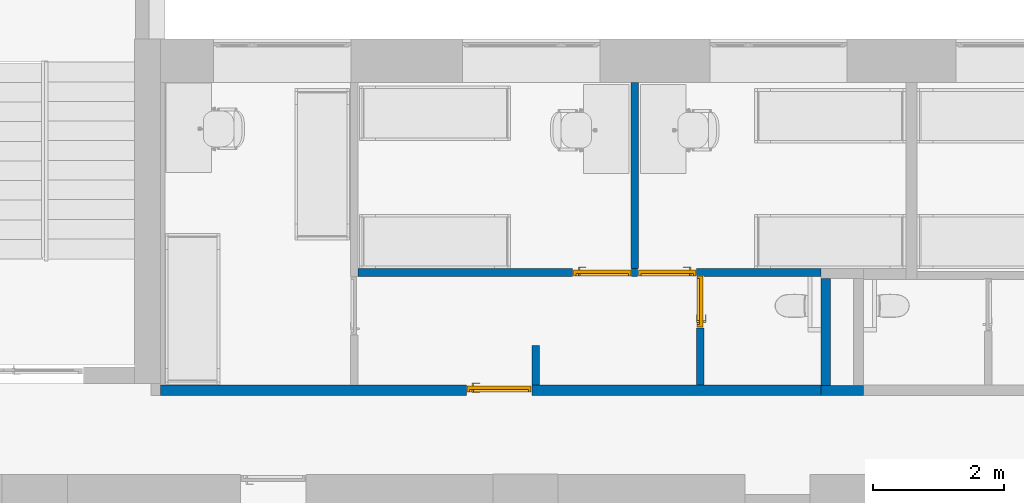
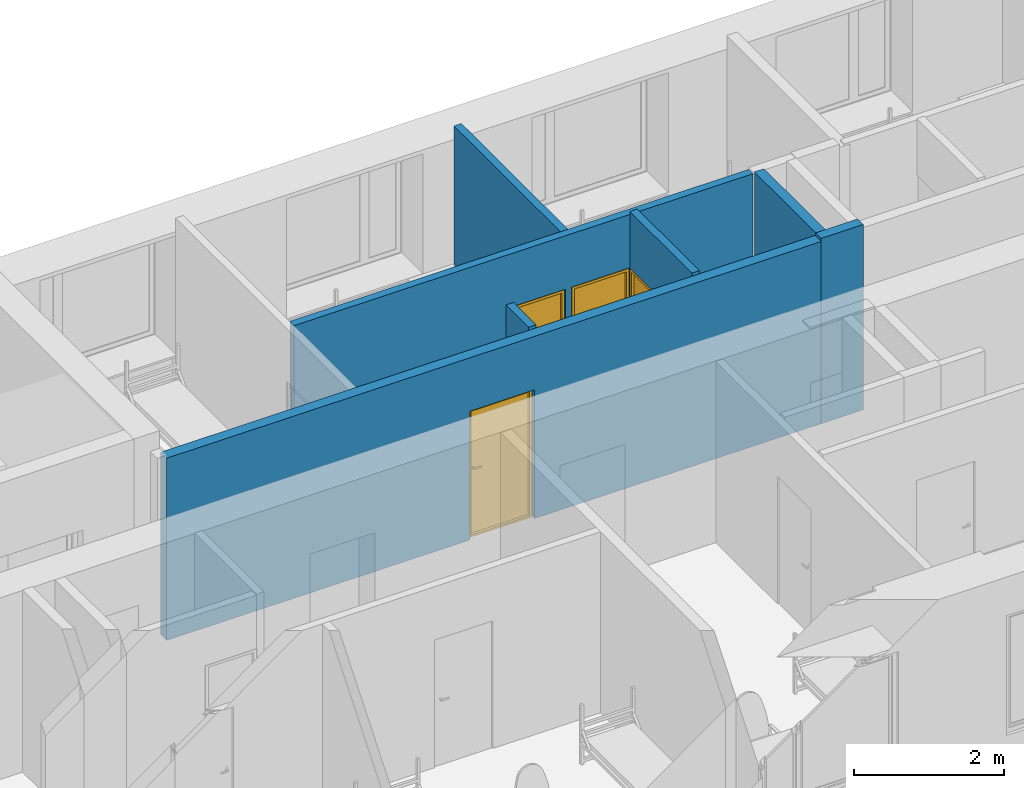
# One storey, part 9 of 48: 7 walls, 4 doors, 5 openings.
"""IFC2X3 building model written with IfcOpenShell, lengths in millimetres."""

from ifc_helpers import new_model, entity, si_unit, converted_unit, derived_unit, direction, frame, frame_2d, origin, place, context, subcontext, project, spatial, rectangle, extrude, faceted_brep, source, transform, mapped, material, material_list, layer, layer_set, layer_usage, type_object, type_shapes, element, fill, save


model = new_model("IFC2X3")

# Units and contexts
model_context = context("Model", 3, precision=0.01, world=origin(), true_north=direction((6.12303176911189e-17, 1.0)))
body_context = subcontext(model_context, "Body", "Model", "MODEL_VIEW")
ifc_project = project(units=[si_unit("LENGTHUNIT", "METRE", prefix="MILLI"), si_unit("AREAUNIT", "SQUARE_METRE"), si_unit("VOLUMEUNIT", "CUBIC_METRE"), converted_unit("PLANEANGLEUNIT", "DEGREE", entity("IfcRatioMeasure", 0.0174532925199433), si_unit("PLANEANGLEUNIT", "RADIAN"), dimensions=[0, 0, 0, 0, 0, 0, 0]), si_unit("MASSUNIT", "GRAM", prefix="KILO"), derived_unit("MASSDENSITYUNIT", [(si_unit("MASSUNIT", "GRAM", prefix="KILO"), 1), (si_unit("LENGTHUNIT", "METRE"), -3)]), si_unit("TIMEUNIT", "SECOND"), si_unit("FREQUENCYUNIT", "HERTZ"), si_unit("THERMODYNAMICTEMPERATUREUNIT", "DEGREE_CELSIUS"), derived_unit("THERMALTRANSMITTANCEUNIT", [(si_unit("MASSUNIT", "GRAM", prefix="KILO"), 1), (si_unit("THERMODYNAMICTEMPERATUREUNIT", "KELVIN"), -1), (si_unit("TIMEUNIT", "SECOND"), -3)]), derived_unit("VOLUMETRICFLOWRATEUNIT", [(si_unit("LENGTHUNIT", "METRE"), 3), (si_unit("TIMEUNIT", "SECOND"), -1)]), si_unit("ELECTRICCURRENTUNIT", "AMPERE"), si_unit("ELECTRICVOLTAGEUNIT", "VOLT"), si_unit("POWERUNIT", "WATT"), si_unit("FORCEUNIT", "NEWTON", prefix="KILO"), si_unit("ILLUMINANCEUNIT", "LUX"), si_unit("LUMINOUSFLUXUNIT", "LUMEN"), si_unit("LUMINOUSINTENSITYUNIT", "CANDELA"), derived_unit("USERDEFINED", [(si_unit("MASSUNIT", "GRAM", prefix="KILO"), -1), (si_unit("LENGTHUNIT", "METRE"), -2), (si_unit("TIMEUNIT", "SECOND"), 3), (si_unit("LUMINOUSFLUXUNIT", "LUMEN"), 1)]), derived_unit("LINEARVELOCITYUNIT", [(si_unit("LENGTHUNIT", "METRE"), 1), (si_unit("TIMEUNIT", "SECOND"), -1)]), si_unit("PRESSUREUNIT", "PASCAL"), derived_unit("USERDEFINED", [(si_unit("LENGTHUNIT", "METRE"), -2), (si_unit("MASSUNIT", "GRAM", prefix="KILO"), 1), (si_unit("TIMEUNIT", "SECOND"), -2)]), derived_unit("LINEARFORCEUNIT", [(si_unit("MASSUNIT", "GRAM", prefix="KILO"), 1), (si_unit("LENGTHUNIT", "METRE"), 1), (si_unit("TIMEUNIT", "SECOND"), -2), (si_unit("LENGTHUNIT", "METRE"), -1)]), derived_unit("PLANARFORCEUNIT", [(si_unit("MASSUNIT", "GRAM", prefix="KILO"), 1), (si_unit("LENGTHUNIT", "METRE"), 1), (si_unit("TIMEUNIT", "SECOND"), -2), (si_unit("LENGTHUNIT", "METRE"), -2)])], contexts=[model_context])

# Site, building, storey
site_placement = place(None, origin())
site = spatial("IfcSite", under=ifc_project, at=site_placement, Name="Default", CompositionType="ELEMENT")
building_placement = place(site_placement, origin())
building = spatial("IfcBuilding", under=site, at=building_placement, Name="SMA ARH", CompositionType="ELEMENT")
storey_placement = place(building_placement, frame((0.0, 0.0, 6600.0)))
storey = spatial("IfcBuildingStorey", under=building, at=storey_placement, Name="3 Korrus", CompositionType="ELEMENT", Elevation=6599.99999999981)

# Walls
ifc_material_1 = material(Name="EST. Müüritis. Väikeplokk. Kergkruusplokk")
ifc_layer_1 = layer(ifc_material_1, 150.0)
ifc_layer_set_1 = layer_set([ifc_layer_1], Name="Basic Wall:SS-02_ 150mm šahtide vahesein")
ifc_layer_usage_1 = layer_usage(ifc_layer_set_1, "AXIS2", "POSITIVE", -75.0)
wall_type_1 = type_object("IfcWallType", Name="Basic Wall:SS-02_ 150mm šahtide vahesein", PredefinedType="STANDARD", material=ifc_layer_set_1)
wall_1_placement = place(storey_placement, frame((22737.2884818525, 7795.0, 0.0), z_axis=(0.0, 0.0, 1.0), x_axis=(-1.0, 0.0, 0.0)))
element("IfcWallStandardCase", 1, at=wall_1_placement, inside=storey, type_object=wall_type_1, material=ifc_layer_usage_1, Name="Basic Wall:SS-02_ 150mm šahtide vahesein", ObjectType="Basic Wall:SS-02_ 150mm šahtide vahesein", context=body_context, shape_type="SweptSolid", body=[
    extrude(rectangle(XDim=650.000000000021, YDim=150.000000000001, at=frame_2d((325.000000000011, 4.68958205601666e-13), x_axis=(-1.0, 0.0))), origin(), (0.0, 0.0, 1.0), 3019.99999999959),
])
ifc_layer_usage_2 = layer_usage(ifc_layer_set_1, "AXIS2", "POSITIVE", -75.0)
wall_2_placement = place(storey_placement, frame((22162.2884818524, 7870.0, 0.0), z_axis=(0.0, 0.0, 1.0), x_axis=(0.0, 1.0, 0.0)))
element("IfcWallStandardCase", 2, at=wall_2_placement, inside=storey, type_object=wall_type_1, material=ifc_layer_usage_2, Name="Basic Wall:SS-02_ 150mm šahtide vahesein", ObjectType="Basic Wall:SS-02_ 150mm šahtide vahesein", context=body_context, shape_type="SweptSolid", body=[
    extrude(rectangle(XDim=1637.00000000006, YDim=150.000000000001, at=frame_2d((818.500000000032, 0.0), x_axis=(-1.0, 0.0))), origin(), (0.0, 0.0, 1.0), 3019.99999999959),
])

# Wall, opening, door
ifc_material_2 = material(Name="EST. Ehitusplaat. Kipsplaat")
ifc_layer_2 = layer(ifc_material_2, 12.5)
ifc_layer_3 = layer(ifc_material_2, 12.5)
ifc_material_3 = material(Name="EST. Soojustus. Mineraalvill. Default")
ifc_layer_4 = layer(ifc_material_3, 50.0)
ifc_layer_5 = layer(ifc_material_2, 12.5)
ifc_layer_6 = layer(ifc_material_3, 50.0)
ifc_layer_7 = layer(ifc_material_2, 12.5)
ifc_layer_8 = layer(ifc_material_2, 12.5)
ifc_layer_set_2 = layer_set([ifc_layer_2, ifc_layer_3, ifc_layer_4, ifc_layer_5, ifc_layer_6, ifc_layer_7, ifc_layer_8], Name="Basic Wall:SS-04_Kips, 50+50 mm metallkarkass 2")
ifc_layer_usage_3 = layer_usage(ifc_layer_set_2, "AXIS2", "NEGATIVE", 81.25)
wall_type_2 = type_object("IfcWallType", Name="Basic Wall:SS-04_Kips, 50+50 mm metallkarkass 2", PredefinedType="STANDARD", material=ifc_layer_set_2)
wall_3_placement = place(storey_placement, frame((12000.0, 7801.25000000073, 0.0)))
wall_3 = element("IfcWallStandardCase", 3, at=wall_3_placement, inside=storey, type_object=wall_type_2, material=ifc_layer_usage_3, Name="Basic Wall:SS-04_Kips, 50+50 mm metallkarkass 2", ObjectType="Basic Wall:SS-04_Kips, 50+50 mm metallkarkass 2", context=body_context, shape_type="SweptSolid", body=[
    extrude(rectangle(XDim=10087.2884818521, YDim=162.5, at=frame_2d((5043.64424092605, -1.4210854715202e-14), x_axis=(-1.0, 0.0))), origin(), (0.0, 0.0, 1.0), 2970.00000000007),
])
opening_1_placement = place(wall_3_placement, frame((4672.0, -81.2500000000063, 0.0)))
opening_1 = element("IfcOpeningElement", 4, at=opening_1_placement, cuts=wall_3, Name="SMA_D01, 1-poolne:SU-P-04 - 1000x2100 EI-30:1", ObjectType="Opening", context=body_context, shape_type="SweptSolid", body=[
    extrude(rectangle(XDim=2099.99999999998, YDim=1000.0, at=frame_2d((1049.99999999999, 500.0), x_axis=(1.0, 0.0))), frame((0.0, 0.0, 0.0), z_axis=(0.0, 1.0, 0.0), x_axis=(0.0, 0.0, 1.0)), (0.0, 0.0, 1.0), 162.5),
])
ifc_material_4 = material(Name="EST. Metall. Alumiinium. Värvitud. RAL7023 (Concrete grey)")
ifc_material_5 = material(Name="<Unnamed>")
ifc_material_6 = material(Name="EST. Klaas. 3x. Default")
ifc_material_list_1 = material_list([ifc_material_5, ifc_material_6, ifc_material_5, ifc_material_4, ifc_material_5, ifc_material_4, ifc_material_4])
door_style_1 = type_object("IfcDoorStyle", Name="SMA_D01, 1-poolne:SU-P-04 - 1000x2100 EI-30", ConstructionType="NOTDEFINED", OperationType="SINGLE_SWING_RIGHT", ParameterTakesPrecedence=False, Sizeable=False, material=ifc_material_list_1)
shared_shape_1 = source(origin(), body_context, "Body", "Brep", [
    faceted_brep([(110.0, 52.5000000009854, 1112.5), (110.0, 90.5000000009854, 1112.5), (85.0, 90.5000000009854, 1112.5), (85.0, 47.5000000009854, 1112.5), (205.0, 47.5000000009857, 1112.5), (205.0, 52.5000000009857, 1112.5), (110.0, 52.5000000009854, 1087.5), (205.0, 52.5000000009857, 1087.5), (205.0, 47.5000000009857, 1087.5), (85.0, 47.5000000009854, 1087.5), (85.0, 90.5000000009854, 1087.5), (110.0, 90.5000000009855, 1087.5)], [[[0, 1, 2, 3, 4, 5]], [[6, 7, 8, 9, 10, 11]], [[1, 0, 6, 11]], [[2, 1, 11, 10]], [[3, 2, 10, 9]], [[4, 3, 9, 8]], [[5, 4, 8, 7]], [[0, 5, 7, 6]]]),
    faceted_brep([(122.499999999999, 90.5000000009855, 1137.5), (122.499999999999, 92.5000000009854, 1137.5), (72.4999999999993, 92.5000000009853, 1137.5), (72.4999999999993, 90.5000000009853, 1137.5), (122.499999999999, 90.5000000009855, 1017.5), (72.4999999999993, 90.5000000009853, 1017.5), (72.4999999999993, 92.5000000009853, 1017.5), (122.499999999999, 92.5000000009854, 1017.5)], [[[0, 1, 2, 3]], [[4, 5, 6, 7]], [[1, 0, 4, 7]], [[2, 1, 7, 6]], [[3, 2, 6, 5]], [[0, 3, 5, 4]]]),
    faceted_brep([(110.0, 182.500000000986, 1112.5), (205.0, 182.500000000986, 1112.5), (205.0, 187.500000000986, 1112.5), (85.0, 187.500000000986, 1112.5), (85.0, 144.500000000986, 1112.5), (110.0, 144.500000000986, 1112.5), (110.0, 182.500000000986, 1087.5), (110.0, 144.500000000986, 1087.5), (85.0, 144.500000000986, 1087.5), (85.0, 187.500000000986, 1087.5), (205.0, 187.500000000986, 1087.5), (205.0, 182.500000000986, 1087.5)], [[[0, 1, 2, 3, 4, 5]], [[6, 7, 8, 9, 10, 11]], [[5, 7, 6, 0]], [[4, 8, 7, 5]], [[3, 9, 8, 4]], [[2, 10, 9, 3]], [[1, 11, 10, 2]], [[0, 6, 11, 1]]]),
    faceted_brep([(122.499999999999, 144.500000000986, 1137.5), (72.4999999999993, 144.500000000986, 1137.5), (72.4999999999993, 142.500000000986, 1137.5), (122.499999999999, 142.500000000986, 1137.5), (122.499999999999, 144.500000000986, 1017.5), (122.499999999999, 142.500000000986, 1017.5), (72.4999999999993, 142.500000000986, 1017.5), (72.4999999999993, 144.500000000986, 1017.5)], [[[0, 1, 2, 3]], [[4, 5, 6, 7]], [[3, 5, 4, 0]], [[2, 6, 5, 3]], [[1, 7, 6, 2]], [[0, 4, 7, 1]]]),
    faceted_brep([(950.0, 52.5000000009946, 30.0), (950.0, 52.5000000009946, 0.0), (950.0, 92.5000000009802, 0.0), (950.0, 92.5000000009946, 20.0), (950.0, 92.5000000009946, 30.0), (50.0, 52.5000000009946, 30.0), (50.0, 92.5000000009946, 30.0), (50.0, 92.5000000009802, 20.0), (50.0, 92.5000000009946, 0.0), (50.0, 52.5000000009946, 0.0), (35.0, 92.5000000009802, 0.0), (35.0, 142.500000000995, 0.0), (965.0, 142.500000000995, 0.0), (965.0, 92.5000000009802, 0.0), (965.0, 142.500000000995, 20.0), (965.0, 92.5000000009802, 20.0), (35.0, 142.500000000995, 20.0), (35.0, 92.5000000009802, 20.0)], [[[0, 1, 2, 3, 4]], [[5, 6, 7, 8, 9]], [[1, 0, 5, 9]], [[2, 1, 9, 8, 10, 11, 12, 13]], [[6, 4, 3, 7]], [[0, 4, 6, 5]], [[14, 15, 13, 12]], [[16, 11, 10, 17]], [[15, 14, 16, 17, 7, 3]], [[13, 15, 3, 2]], [[14, 12, 11, 16]], [[17, 10, 8, 7]]]),
    faceted_brep([(990.0, 52.5000000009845, 0.0), (950.0, 52.5000000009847, 0.0), (950.0, 92.5000000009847, 0.0), (965.0, 92.5000000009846, 0.0), (965.0, 142.500000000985, 0.0), (990.0, 142.500000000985, 0.0), (990.0, 52.5000000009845, 2090.0), (10.0, 52.5000000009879, 2090.0), (10.0, 52.5000000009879, 0.0), (50.0, 52.5000000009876, 0.0), (50.0, 52.5000000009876, 2050.0), (950.0, 52.5000000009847, 2050.0), (950.0, 92.5000000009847, 2050.0), (50.0, 92.5000000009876, 2050.0), (50.0, 92.5000000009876, 0.0), (35.0, 92.5000000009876, 0.0), (35.0, 92.5000000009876, 2065.0), (965.0, 92.5000000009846, 2065.0), (965.0, 142.500000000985, 2065.0), (35.0, 142.500000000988, 2065.0), (35.0, 142.500000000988, 0.0), (10.0, 142.500000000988, 0.0), (10.0, 142.500000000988, 2090.0), (990.0, 142.500000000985, 2090.0)], [[[0, 1, 2, 3, 4, 5]], [[1, 0, 6, 7, 8, 9, 10, 11]], [[2, 1, 11, 12]], [[3, 2, 12, 13, 14, 15, 16, 17]], [[4, 3, 17, 18]], [[5, 4, 18, 19, 20, 21, 22, 23]], [[0, 5, 23, 6]], [[8, 7, 22, 21]], [[9, 8, 21, 20, 15, 14]], [[10, 9, 14, 13]], [[16, 15, 20, 19]], [[11, 10, 13, 12]], [[17, 16, 19, 18]], [[7, 6, 23, 22]]]),
    faceted_brep([(35.0, 92.5000000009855, 2065.0), (35.0, 92.5000000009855, 20.0), (965.0, 92.5000000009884, 20.0), (965.0, 92.5000000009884, 2065.0), (35.0, 142.500000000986, 2065.0), (965.0, 142.500000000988, 2065.0), (965.0, 142.500000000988, 20.0), (35.0, 142.500000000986, 20.0)], [[[0, 1, 2, 3]], [[4, 5, 6, 7]], [[1, 0, 4, 7]], [[2, 1, 7, 6]], [[3, 2, 6, 5]], [[0, 3, 5, 4]]]),
])
type_shapes(door_style_1, [shared_shape_1])
door_1_placement = place(opening_1_placement, origin())
door_1 = element("IfcDoor", 5, at=door_1_placement, inside=storey, type_object=door_style_1, material=ifc_material_4, Name="SMA_D01, 1-poolne:SU-P-04 - 1000x2100 EI-30", ObjectType="SMA_D01, 1-poolne:SU-P-04 - 1000x2100 EI-30", OverallHeight=2099.99999999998, OverallWidth=1000.0, context=body_context, shape_type="MappedRepresentation", body=[
    mapped(shared_shape_1, transform((0.0, 0.0, 0.0), scale=1.0)),
])
fill(opening_1, door_1)

# Wall, openings, doors
ifc_layer_9 = layer(ifc_material_2, 12.5)
ifc_layer_10 = layer(ifc_material_2, 12.5)
ifc_layer_11 = layer(ifc_material_3, 66.0)
ifc_layer_12 = layer(ifc_material_2, 12.5)
ifc_layer_13 = layer(ifc_material_2, 12.5)
ifc_layer_set_3 = layer_set([ifc_layer_9, ifc_layer_10, ifc_layer_11, ifc_layer_12, ifc_layer_13], Name="Basic Wall:SS-05_Kips, 66mm metallkarkass")
ifc_layer_usage_4 = layer_usage(ifc_layer_set_3, "AXIS2", "NEGATIVE", 58.0)
wall_type_3 = type_object("IfcWallType", Name="Basic Wall:SS-05_Kips, 66mm metallkarkass", PredefinedType="STANDARD", material=ifc_layer_set_3)
wall_4_placement = place(storey_placement, frame((15015.5000000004, 9599.0, 0.0)))
wall_4 = element("IfcWallStandardCase", 6, at=wall_4_placement, inside=storey, type_object=wall_type_3, material=ifc_layer_usage_4, Name="Basic Wall:SS-05_Kips, 66mm metallkarkass", ObjectType="Basic Wall:SS-05_Kips, 66mm metallkarkass", context=body_context, shape_type="SweptSolid", body=[
    extrude(rectangle(XDim=7071.78848185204, YDim=116.0, at=frame_2d((3535.89424092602, -6.75015598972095e-14), x_axis=(-1.0, 0.0))), origin(), (0.0, 0.0, 1.0), 2970.00000000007),
])
opening_2_placement = place(wall_4_placement, origin())
element("IfcOpeningElement", 7, at=opening_2_placement, cuts=wall_4, Name="Basic Wall:SS-05_Kips, 66mm metallkarkass", ObjectType="Opening", context=body_context, shape_type="SweptSolid", body=[
    extrude(rectangle(XDim=2099.99999999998, YDim=116.0, at=frame_2d((0.0, -5.6843418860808e-13), x_axis=(0.0, 1.0))), frame((5230.49999999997, -845.500000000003, 1050.0), z_axis=(0.0, 1.0, 0.0), x_axis=(-1.0, 0.0, 0.0)), (0.0, 0.0, 1.0), 800.0),
])
opening_3_placement = place(wall_4_placement, frame((3280.49999999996, -58.0, 0.0)))
opening_3 = element("IfcOpeningElement", 8, at=opening_3_placement, cuts=wall_4, Name="SMA_D01, 1-poolne:SU-P-05 - 900x2100 TUBA:1", ObjectType="Opening", context=body_context, shape_type="SweptSolid", body=[
    extrude(rectangle(XDim=2099.99999999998, YDim=900.0, at=frame_2d((1049.99999999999, 450.0), x_axis=(1.0, 0.0))), frame((0.0, 0.0, 0.0), z_axis=(0.0, 1.0, 0.0), x_axis=(0.0, 0.0, 1.0)), (0.0, 0.0, 1.0), 116.0),
])
opening_4_placement = place(wall_4_placement, frame((4273.49999999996, -58.0, 0.0)))
opening_4 = element("IfcOpeningElement", 9, at=opening_4_placement, cuts=wall_4, Name="SMA_D01, 1-poolne:SU-P-05 - 900x2100 TUBA:1", ObjectType="Opening", context=body_context, shape_type="SweptSolid", body=[
    extrude(rectangle(XDim=2099.99999999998, YDim=900.0, at=frame_2d((1049.99999999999, 450.000000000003), x_axis=(1.0, 0.0))), frame((0.0, 0.0, 0.0), z_axis=(0.0, 1.0, 0.0), x_axis=(0.0, 0.0, 1.0)), (0.0, 0.0, 1.0), 116.0),
])
ifc_material_list_2 = material_list([ifc_material_4, ifc_material_5, ifc_material_4, ifc_material_5, ifc_material_5, ifc_material_6, ifc_material_4])
door_style_2 = type_object("IfcDoorStyle", Name="SMA_D01, 1-poolne:SU-P-05 - 900x2100 TUBA", ConstructionType="NOTDEFINED", OperationType="SINGLE_SWING_LEFT", ParameterTakesPrecedence=False, Sizeable=False, material=ifc_material_list_2)
shared_shape_2 = source(origin(), body_context, "Body", "Brep", [
    faceted_brep([(790.0, 6.0, 1112.5), (695.0, 6.0, 1112.5), (695.0, 1.0, 1112.5), (815.0, 1.0, 1112.5), (815.0, 44.0, 1112.5), (790.0, 44.0, 1112.5), (790.0, 6.0, 1087.5), (790.0, 44.0, 1087.5), (815.0, 44.0, 1087.5), (815.0, 1.0, 1087.5), (695.0, 1.0, 1087.5), (695.0, 6.0, 1087.5)], [[[0, 1, 2, 3, 4, 5]], [[6, 7, 8, 9, 10, 11]], [[5, 7, 6, 0]], [[4, 8, 7, 5]], [[3, 9, 8, 4]], [[2, 10, 9, 3]], [[1, 11, 10, 2]], [[0, 6, 11, 1]]]),
    faceted_brep([(777.500000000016, 44.0, 1137.5), (827.500000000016, 44.0, 1137.5), (827.500000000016, 46.0, 1137.5), (777.500000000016, 46.0, 1137.5), (777.500000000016, 44.0, 1017.5), (777.500000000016, 46.0, 1017.5), (827.500000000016, 46.0, 1017.5), (827.500000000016, 44.0, 1017.5)], [[[0, 1, 2, 3]], [[4, 5, 6, 7]], [[3, 5, 4, 0]], [[2, 6, 5, 3]], [[1, 7, 6, 2]], [[0, 4, 7, 1]]]),
    faceted_brep([(790.0, 136.0, 1112.5), (790.0, 98.0, 1112.5), (815.0, 98.0, 1112.5), (815.0, 141.0, 1112.5), (695.0, 141.0, 1112.5), (695.0, 136.0, 1112.5), (790.0, 136.0, 1087.5), (695.0, 136.0, 1087.5), (695.0, 141.0, 1087.5), (815.0, 141.0, 1087.5), (815.0, 98.0, 1087.5), (790.0, 98.0, 1087.5)], [[[0, 1, 2, 3, 4, 5]], [[6, 7, 8, 9, 10, 11]], [[1, 0, 6, 11]], [[2, 1, 11, 10]], [[3, 2, 10, 9]], [[4, 3, 9, 8]], [[5, 4, 8, 7]], [[0, 5, 7, 6]]]),
    faceted_brep([(777.500000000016, 98.0, 1137.5), (777.500000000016, 96.0, 1137.5), (827.500000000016, 96.0, 1137.5), (827.500000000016, 98.0, 1137.5), (777.500000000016, 98.0, 1017.5), (827.500000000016, 98.0, 1017.5), (827.500000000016, 96.0, 1017.5), (777.500000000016, 96.0, 1017.5)], [[[0, 1, 2, 3]], [[4, 5, 6, 7]], [[1, 0, 4, 7]], [[2, 1, 7, 6]], [[3, 2, 6, 5]], [[0, 3, 5, 4]]]),
    faceted_brep([(50.0, 6.0, 30.0), (50.0, 46.0, 30.0), (50.0, 46.0, 20.0), (50.0, 46.0, 0.0), (50.0, 6.0, 0.0), (850.0, 6.0, 30.0), (850.0, 6.0, 0.0), (850.0, 46.0, 0.0), (850.0, 46.0, 20.0), (850.0, 46.0, 30.0), (35.0, 46.0, 0.0), (35.0, 96.0, 0.0), (865.0, 96.0, 0.0), (865.0, 46.0, 0.0), (35.0, 96.0, 20.0), (35.0, 46.0, 20.0), (865.0, 96.0, 20.0), (865.0, 46.0, 20.0)], [[[0, 1, 2, 3, 4]], [[5, 6, 7, 8, 9]], [[4, 6, 5, 0]], [[3, 10, 11, 12, 13, 7, 6, 4]], [[9, 8, 2, 1]], [[0, 5, 9, 1]], [[14, 11, 10, 15]], [[16, 17, 13, 12]], [[15, 2, 8, 17, 16, 14]], [[10, 3, 2, 15]], [[14, 16, 12, 11]], [[17, 8, 7, 13]]]),
    faceted_brep([(10.0, 6.0, 0.0), (10.0, 96.0, 0.0), (35.0, 96.0, 0.0), (35.0, 46.0, 0.0), (50.0, 46.0, 0.0), (50.0, 6.0, 0.0), (50.0, 6.0, 2050.0), (850.0, 6.0, 2050.0), (850.0, 6.0, 0.0), (890.0, 6.0, 0.0), (890.0, 6.0, 2090.0), (10.0, 6.0, 2090.0), (50.0, 46.0, 2050.0), (35.0, 46.0, 2065.0), (865.0, 46.0, 2065.0), (865.0, 46.0, 0.0), (850.0, 46.0, 0.0), (850.0, 46.0, 2050.0), (35.0, 96.0, 2065.0), (10.0, 96.0, 2090.0), (890.0, 96.0, 2090.0), (890.0, 96.0, 0.0), (865.0, 96.0, 0.0), (865.0, 96.0, 2065.0)], [[[0, 1, 2, 3, 4, 5]], [[5, 6, 7, 8, 9, 10, 11, 0]], [[4, 12, 6, 5]], [[3, 13, 14, 15, 16, 17, 12, 4]], [[2, 18, 13, 3]], [[1, 19, 20, 21, 22, 23, 18, 2]], [[0, 11, 19, 1]], [[9, 21, 20, 10]], [[8, 16, 15, 22, 21, 9]], [[7, 17, 16, 8]], [[14, 23, 22, 15]], [[6, 12, 17, 7]], [[13, 18, 23, 14]], [[10, 20, 19, 11]]]),
    faceted_brep([(865.0, 46.0, 2065.0), (35.0, 46.0, 2065.0), (35.0, 46.0, 20.0), (865.0, 46.0, 20.0), (865.0, 96.0, 2065.0), (865.0, 96.0, 20.0), (35.0, 96.0, 20.0), (35.0, 96.0, 2065.0)], [[[0, 1, 2, 3]], [[4, 5, 6, 7]], [[3, 5, 4, 0]], [[2, 6, 5, 3]], [[1, 7, 6, 2]], [[0, 4, 7, 1]]]),
])
type_shapes(door_style_2, [shared_shape_2])
door_2_placement = place(opening_4_placement, origin())
door_2 = element("IfcDoor", 10, at=door_2_placement, inside=storey, type_object=door_style_2, material=ifc_material_4, Name="SMA_D01, 1-poolne:SU-P-05 - 900x2100 TUBA", ObjectType="SMA_D01, 1-poolne:SU-P-05 - 900x2100 TUBA", OverallHeight=2099.99999999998, OverallWidth=900.000000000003, context=body_context, shape_type="MappedRepresentation", body=[
    mapped(shared_shape_2, transform((0.0, 0.0, 0.0), scale=1.0)),
])
fill(opening_4, door_2)
ifc_material_list_3 = material_list([ifc_material_5, ifc_material_6, ifc_material_5, ifc_material_4, ifc_material_4, ifc_material_4, ifc_material_5])
door_style_3 = type_object("IfcDoorStyle", Name="SMA_D01, 1-poolne:SU-P-05 - 900x2100 TUBA", ConstructionType="NOTDEFINED", OperationType="SINGLE_SWING_RIGHT", ParameterTakesPrecedence=False, Sizeable=False, material=ifc_material_list_3)
shared_shape_3 = source(origin(), body_context, "Body", "Brep", [
    faceted_brep([(110.0, 6.0, 1112.5), (110.0, 44.0, 1112.5), (85.0, 44.0, 1112.5), (85.0, 1.0, 1112.5), (205.0, 1.0, 1112.5), (205.0, 6.0, 1112.5), (110.0, 6.0, 1087.5), (205.0, 6.0, 1087.5), (205.0, 1.0, 1087.5), (85.0, 1.0, 1087.5), (85.0, 44.0, 1087.5), (110.0, 44.0, 1087.5)], [[[0, 1, 2, 3, 4, 5]], [[6, 7, 8, 9, 10, 11]], [[1, 0, 6, 11]], [[2, 1, 11, 10]], [[3, 2, 10, 9]], [[4, 3, 9, 8]], [[5, 4, 8, 7]], [[0, 5, 7, 6]]]),
    faceted_brep([(122.5, 44.0, 1137.5), (122.5, 46.0, 1137.5), (72.5000000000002, 46.0, 1137.5), (72.5000000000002, 44.0, 1137.5), (122.5, 44.0, 1017.5), (72.5000000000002, 44.0, 1017.5), (72.5000000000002, 46.0, 1017.5), (122.5, 46.0, 1017.5)], [[[0, 1, 2, 3]], [[4, 5, 6, 7]], [[1, 0, 4, 7]], [[2, 1, 7, 6]], [[3, 2, 6, 5]], [[0, 3, 5, 4]]]),
    faceted_brep([(110.0, 136.0, 1112.5), (205.0, 136.0, 1112.5), (205.0, 141.0, 1112.5), (85.0, 141.0, 1112.5), (85.0, 98.0, 1112.5), (110.0, 98.0, 1112.5), (110.0, 136.0, 1087.5), (110.0, 98.0, 1087.5), (85.0, 98.0, 1087.5), (85.0, 141.0, 1087.5), (205.0, 141.0, 1087.5), (205.0, 136.0, 1087.5)], [[[0, 1, 2, 3, 4, 5]], [[6, 7, 8, 9, 10, 11]], [[5, 7, 6, 0]], [[4, 8, 7, 5]], [[3, 9, 8, 4]], [[2, 10, 9, 3]], [[1, 11, 10, 2]], [[0, 6, 11, 1]]]),
    faceted_brep([(122.5, 98.0, 1137.5), (72.5000000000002, 98.0, 1137.5), (72.5000000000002, 96.0, 1137.5), (122.5, 96.0, 1137.5), (122.5, 98.0, 1017.5), (122.5, 96.0, 1017.5), (72.5000000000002, 96.0, 1017.5), (72.5000000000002, 98.0, 1017.5)], [[[0, 1, 2, 3]], [[4, 5, 6, 7]], [[3, 5, 4, 0]], [[2, 6, 5, 3]], [[1, 7, 6, 2]], [[0, 4, 7, 1]]]),
    faceted_brep([(850.0, 6.0, 30.0), (850.0, 6.0, 0.0), (850.0, 46.0, 0.0), (850.0, 46.0, 20.0), (850.0, 46.0, 30.0), (50.0, 6.0, 30.0), (50.0, 46.0, 30.0), (50.0, 46.0, 20.0), (50.0, 46.0, 0.0), (50.0, 6.0, 0.0), (35.0, 46.0, 0.0), (35.0, 96.0, 0.0), (865.0, 96.0, 0.0), (865.0, 46.0, 0.0), (865.0, 96.0, 20.0), (865.0, 46.0, 20.0), (35.0, 96.0, 20.0), (35.0, 46.0, 20.0)], [[[0, 1, 2, 3, 4]], [[5, 6, 7, 8, 9]], [[1, 0, 5, 9]], [[2, 1, 9, 8, 10, 11, 12, 13]], [[6, 4, 3, 7]], [[0, 4, 6, 5]], [[14, 15, 13, 12]], [[16, 11, 10, 17]], [[15, 14, 16, 17, 7, 3]], [[13, 15, 3, 2]], [[14, 12, 11, 16]], [[17, 10, 8, 7]]]),
    faceted_brep([(890.0, 6.0, 0.0), (850.0, 6.0, 0.0), (850.0, 46.0, 0.0), (865.0, 46.0, 0.0), (865.0, 96.0, 0.0), (890.0, 96.0, 0.0), (890.0, 6.0, 2090.0), (10.0, 6.0, 2090.0), (10.0, 6.0, 0.0), (50.0, 6.0, 0.0), (50.0, 6.0, 2050.0), (850.0, 6.0, 2050.0), (850.0, 46.0, 2050.0), (50.0, 46.0, 2050.0), (50.0, 46.0, 0.0), (35.0, 46.0, 0.0), (35.0, 46.0, 2065.0), (865.0, 46.0, 2065.0), (865.0, 96.0, 2065.0), (35.0, 96.0, 2065.0), (35.0, 96.0, 0.0), (10.0, 96.0, 0.0), (10.0, 96.0, 2090.0), (890.0, 96.0, 2090.0)], [[[0, 1, 2, 3, 4, 5]], [[1, 0, 6, 7, 8, 9, 10, 11]], [[2, 1, 11, 12]], [[3, 2, 12, 13, 14, 15, 16, 17]], [[4, 3, 17, 18]], [[5, 4, 18, 19, 20, 21, 22, 23]], [[0, 5, 23, 6]], [[8, 7, 22, 21]], [[9, 8, 21, 20, 15, 14]], [[10, 9, 14, 13]], [[16, 15, 20, 19]], [[11, 10, 13, 12]], [[17, 16, 19, 18]], [[7, 6, 23, 22]]]),
    faceted_brep([(35.0, 46.0, 2065.0), (35.0, 46.0, 20.0), (865.0, 46.0, 20.0), (865.0, 46.0, 2065.0), (35.0, 96.0, 2065.0), (865.0, 96.0, 2065.0), (865.0, 96.0, 20.0), (35.0, 96.0, 20.0)], [[[0, 1, 2, 3]], [[4, 5, 6, 7]], [[1, 0, 4, 7]], [[2, 1, 7, 6]], [[3, 2, 6, 5]], [[0, 3, 5, 4]]]),
])
type_shapes(door_style_3, [shared_shape_3])
door_3_placement = place(opening_3_placement, origin())
door_3 = element("IfcDoor", 11, at=door_3_placement, inside=storey, type_object=door_style_3, material=ifc_material_4, Name="SMA_D01, 1-poolne:SU-P-05 - 900x2100 TUBA", ObjectType="SMA_D01, 1-poolne:SU-P-05 - 900x2100 TUBA", OverallHeight=2099.99999999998, OverallWidth=899.999999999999, context=body_context, shape_type="MappedRepresentation", body=[
    mapped(shared_shape_3, transform((0.0, 0.0, 0.0), scale=1.0)),
])
fill(opening_3, door_3)

# Wall
ifc_layer_usage_5 = layer_usage(ifc_layer_set_3, "AXIS2", "NEGATIVE", 58.0)
wall_5_placement = place(storey_placement, frame((19243.5000000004, 12500.0, 0.0), z_axis=(0.0, 0.0, 1.0), x_axis=(0.0, -1.0, 0.0)))
element("IfcWallStandardCase", 12, at=wall_5_placement, inside=storey, type_object=wall_type_3, material=ifc_layer_usage_5, Name="Basic Wall:SS-05_Kips, 66mm metallkarkass", ObjectType="Basic Wall:SS-05_Kips, 66mm metallkarkass", context=body_context, shape_type="SweptSolid", body=[
    extrude(rectangle(XDim=2842.99999999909, YDim=116.0, at=frame_2d((1421.49999999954, -2.38031816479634e-13), x_axis=(-1.0, 0.0))), origin(), (0.0, 0.0, 1.0), 2970.00000000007),
])

# Wall, opening, door
ifc_layer_14 = layer(ifc_material_2, 12.5)
ifc_layer_15 = layer(ifc_material_2, 12.5)
ifc_material_7 = material(Name="EST. Õhkvahe. Roov. Kipsplaadi alusroov. Vertikaalne")
ifc_layer_16 = layer(ifc_material_7, 66.0)
ifc_layer_17 = layer(ifc_material_2, 12.5)
ifc_layer_18 = layer(ifc_material_2, 12.5)
ifc_layer_set_4 = layer_set([ifc_layer_14, ifc_layer_15, ifc_layer_16, ifc_layer_17, ifc_layer_18], Name="Basic Wall:SS-03_Kips, 66mm metallkarkass")
ifc_layer_usage_6 = layer_usage(ifc_layer_set_4, "AXIS2", "NEGATIVE", 58.0)
wall_type_4 = type_object("IfcWallType", Name="Basic Wall:SS-03_Kips, 66mm metallkarkass", PredefinedType="STANDARD", material=ifc_layer_set_4)
wall_6_placement = place(storey_placement, frame((20246.0, 7882.50000000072, 0.0), z_axis=(0.0, 0.0, 1.0), x_axis=(0.0, 1.0, 0.0)))
wall_6 = element("IfcWallStandardCase", 13, at=wall_6_placement, inside=storey, type_object=wall_type_4, material=ifc_layer_usage_6, Name="Basic Wall:SS-03_Kips, 66mm metallkarkass", ObjectType="Basic Wall:SS-03_Kips, 66mm metallkarkass", context=body_context, shape_type="SweptSolid", body=[
    extrude(rectangle(XDim=1658.50000000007, YDim=116.0, at=frame_2d((829.250000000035, 8.17124146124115e-14), x_axis=(-1.0, 0.0))), origin(), (0.0, 0.0, 1.0), 3019.99999999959),
])
opening_5_placement = place(wall_6_placement, frame((1671.0, 58.0, 0.0)))
opening_5 = element("IfcOpeningElement", 14, at=opening_5_placement, cuts=wall_6, Name="SMA_D01, 1-poolne:SU-P-06 - 800x2100 DUŠŠ:1", ObjectType="Opening", context=body_context, shape_type="SweptSolid", body=[
    extrude(rectangle(XDim=2099.99999999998, YDim=800.0, at=frame_2d((1049.99999999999, 400.0), x_axis=(1.0, 0.0))), frame((0.0, 0.0, 0.0), z_axis=(0.0, -1.0, 0.0), x_axis=(0.0, 0.0, 1.0)), (0.0, 0.0, 1.0), 116.0),
])
ifc_material_list_4 = material_list([ifc_material_6, ifc_material_4, ifc_material_5, ifc_material_4, ifc_material_5, ifc_material_4, ifc_material_5])
door_style_4 = type_object("IfcDoorStyle", Name="SMA_D01, 1-poolne:SU-P-06 - 800x2100 DUŠŠ", ConstructionType="NOTDEFINED", OperationType="SINGLE_SWING_LEFT", ParameterTakesPrecedence=False, Sizeable=False, material=ifc_material_list_4)
shared_shape_4 = source(origin(), body_context, "Body", "Brep", [
    faceted_brep([(690.0, 6.0, 1112.5), (595.0, 6.0, 1112.5), (595.0, 1.0, 1112.5), (715.0, 1.0, 1112.5), (715.0, 44.0, 1112.5), (690.0, 44.0, 1112.5), (690.0, 6.0, 1087.5), (690.0, 44.0, 1087.5), (715.0, 44.0, 1087.5), (715.0, 1.0, 1087.5), (595.0, 1.0, 1087.5), (595.0, 6.0, 1087.5)], [[[0, 1, 2, 3, 4, 5]], [[6, 7, 8, 9, 10, 11]], [[5, 7, 6, 0]], [[4, 8, 7, 5]], [[3, 9, 8, 4]], [[2, 10, 9, 3]], [[1, 11, 10, 2]], [[0, 6, 11, 1]]]),
    faceted_brep([(677.500000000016, 44.0, 1137.5), (727.500000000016, 44.0, 1137.5), (727.500000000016, 46.0, 1137.5), (677.500000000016, 46.0, 1137.5), (677.500000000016, 44.0, 1017.5), (677.500000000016, 46.0, 1017.5), (727.500000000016, 46.0, 1017.5), (727.500000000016, 44.0, 1017.5)], [[[0, 1, 2, 3]], [[4, 5, 6, 7]], [[3, 5, 4, 0]], [[2, 6, 5, 3]], [[1, 7, 6, 2]], [[0, 4, 7, 1]]]),
    faceted_brep([(690.0, 136.0, 1112.5), (690.0, 98.0, 1112.5), (715.0, 98.0, 1112.5), (715.0, 141.0, 1112.5), (595.0, 141.0, 1112.5), (595.0, 136.0, 1112.5), (690.0, 136.0, 1087.5), (595.0, 136.0, 1087.5), (595.0, 141.0, 1087.5), (715.0, 141.0, 1087.5), (715.0, 98.0, 1087.5), (690.0, 98.0, 1087.5)], [[[0, 1, 2, 3, 4, 5]], [[6, 7, 8, 9, 10, 11]], [[1, 0, 6, 11]], [[2, 1, 11, 10]], [[3, 2, 10, 9]], [[4, 3, 9, 8]], [[5, 4, 8, 7]], [[0, 5, 7, 6]]]),
    faceted_brep([(677.500000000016, 98.0, 1137.5), (677.500000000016, 96.0, 1137.5), (727.500000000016, 96.0, 1137.5), (727.500000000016, 98.0, 1137.5), (677.500000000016, 98.0, 1017.5), (727.500000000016, 98.0, 1017.5), (727.500000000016, 96.0, 1017.5), (677.500000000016, 96.0, 1017.5)], [[[0, 1, 2, 3]], [[4, 5, 6, 7]], [[1, 0, 4, 7]], [[2, 1, 7, 6]], [[3, 2, 6, 5]], [[0, 3, 5, 4]]]),
    faceted_brep([(50.0, 6.0, 30.0), (50.0, 46.0, 30.0), (50.0, 46.0, 20.0), (50.0, 46.0, 0.0), (50.0, 6.0, 0.0), (750.0, 6.0, 30.0), (750.0, 6.0, 0.0), (750.0, 46.0, 0.0), (750.0, 46.0, 20.0), (750.0, 46.0, 30.0), (35.0, 46.0, 0.0), (35.0, 96.0, 0.0), (765.0, 96.0, 0.0), (765.0, 46.0, 0.0), (35.0, 96.0, 20.0), (35.0, 46.0, 20.0), (765.0, 96.0, 20.0), (765.0, 46.0, 20.0)], [[[0, 1, 2, 3, 4]], [[5, 6, 7, 8, 9]], [[4, 6, 5, 0]], [[3, 10, 11, 12, 13, 7, 6, 4]], [[9, 8, 2, 1]], [[0, 5, 9, 1]], [[14, 11, 10, 15]], [[16, 17, 13, 12]], [[15, 2, 8, 17, 16, 14]], [[10, 3, 2, 15]], [[14, 16, 12, 11]], [[17, 8, 7, 13]]]),
    faceted_brep([(10.0, 6.0, 0.0), (10.0, 96.0, 0.0), (35.0, 96.0, 0.0), (35.0, 46.0, 0.0), (50.0, 46.0, 0.0), (50.0, 6.0, 0.0), (50.0, 6.0, 2050.0), (750.0, 6.0, 2050.0), (750.0, 6.0, 0.0), (790.0, 6.0, 0.0), (790.0, 6.0, 2090.0), (10.0, 6.0, 2090.0), (50.0, 46.0, 2050.0), (35.0, 46.0, 2065.0), (765.0, 46.0, 2065.0), (765.0, 46.0, 0.0), (750.0, 46.0, 0.0), (750.0, 46.0, 2050.0), (35.0, 96.0, 2065.0), (10.0, 96.0, 2090.0), (790.0, 96.0, 2090.0), (790.0, 96.0, 0.0), (765.0, 96.0, 0.0), (765.0, 96.0, 2065.0)], [[[0, 1, 2, 3, 4, 5]], [[5, 6, 7, 8, 9, 10, 11, 0]], [[4, 12, 6, 5]], [[3, 13, 14, 15, 16, 17, 12, 4]], [[2, 18, 13, 3]], [[1, 19, 20, 21, 22, 23, 18, 2]], [[0, 11, 19, 1]], [[9, 21, 20, 10]], [[8, 16, 15, 22, 21, 9]], [[7, 17, 16, 8]], [[14, 23, 22, 15]], [[6, 12, 17, 7]], [[13, 18, 23, 14]], [[10, 20, 19, 11]]]),
    faceted_brep([(765.0, 46.0, 2065.0), (35.0, 46.0, 2065.0), (35.0, 46.0, 20.0), (765.0, 46.0, 20.0), (765.0, 96.0, 2065.0), (765.0, 96.0, 20.0), (35.0, 96.0, 20.0), (35.0, 96.0, 2065.0)], [[[0, 1, 2, 3]], [[4, 5, 6, 7]], [[3, 5, 4, 0]], [[2, 6, 5, 3]], [[1, 7, 6, 2]], [[0, 4, 7, 1]]]),
])
type_shapes(door_style_4, [shared_shape_4])
door_4_placement = place(opening_5_placement, frame((0.0, 0.0, 0.0), z_axis=(0.0, 0.0, 1.0), x_axis=(-1.0, 0.0, 0.0)))
door_4 = element("IfcDoor", 15, at=door_4_placement, inside=storey, type_object=door_style_4, material=ifc_material_4, Name="SMA_D01, 1-poolne:SU-P-06 - 800x2100 DUŠŠ", ObjectType="SMA_D01, 1-poolne:SU-P-06 - 800x2100 DUŠŠ", OverallHeight=2099.99999999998, OverallWidth=800.0, context=body_context, shape_type="MappedRepresentation", body=[
    mapped(shared_shape_4, transform((0.0, 0.0, 0.0), scale=1.0)),
])
fill(opening_5, door_4)

# Wall
ifc_layer_usage_7 = layer_usage(ifc_layer_set_4, "AXIS2", "NEGATIVE", 58.0)
wall_7_placement = place(storey_placement, frame((17730.0, 8482.50000000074, 0.0), z_axis=(0.0, 0.0, 1.0), x_axis=(0.0, -1.0, 0.0)))
element("IfcWallStandardCase", 16, at=wall_7_placement, inside=storey, type_object=wall_type_4, material=ifc_layer_usage_7, Name="Basic Wall:SS-03_Kips, 66mm metallkarkass", ObjectType="Basic Wall:SS-03_Kips, 66mm metallkarkass", context=body_context, shape_type="SweptSolid", body=[
    extrude(rectangle(XDim=600.000000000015, YDim=116.0, at=frame_2d((300.000000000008, 0.0), x_axis=(-1.0, 0.0))), origin(), (0.0, 0.0, 1.0), 3019.99999999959),
])

save(model, "model.ifc")
